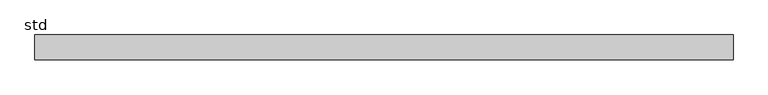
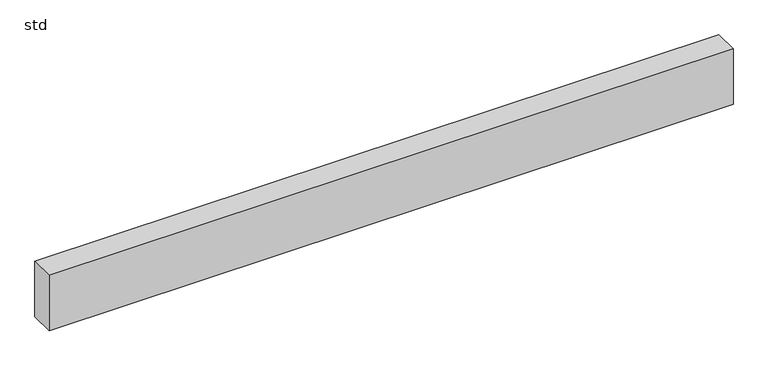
"""IFC4 building model written with IfcOpenShell, lengths in millimetres: proxy geometry, 300_41_ISR_lb_spouwlat : std."""

from ifc_helpers import new_model, si_unit, origin, origin_with_axes, place, context, project, spatial, polyline, outline, extrude, source, transform, mapped, element, save


def std_2bb5f184(model_context):
    return source(origin(), model_context, "Body", "SweptSolid", [
        extrude(outline(polyline([(-700.0, 0.0), (-700.0, 50.0), (700.0, 50.0), (700.0, 0.0), (-700.0, 0.0)])), origin_with_axes(), (0.0, 0.0, 1.0), 120.0),
    ])


if __name__ == "__main__":
    model = new_model("IFC4")
    model_context = context("Model", 3, world=origin())
    ifc_project = project(units=[si_unit("LENGTHUNIT", "METRE", prefix="MILLI")], contexts=[model_context])
    site = spatial("IfcSite", under=ifc_project)
    building = spatial("IfcBuilding", under=site)
    placement = place(None, origin())
    std_shape = std_2bb5f184(model_context)
    element("IfcBuildingElementProxy", 1, Name="300_41_ISR_lb_spouwlat : std", ObjectType="300_41_ISR_lb_spouwlat : std", at=placement, inside=building, context=model_context, shape_type="MappedRepresentation", body=[
        mapped(std_shape, transform((0.0, 0.0, 0.0), x_axis=(1.0, 0.0, 0.0), y_axis=(0.0, 1.0, 0.0), z_axis=(0.0, 0.0, 1.0))),
    ])
    save(model, "model.ifc")
